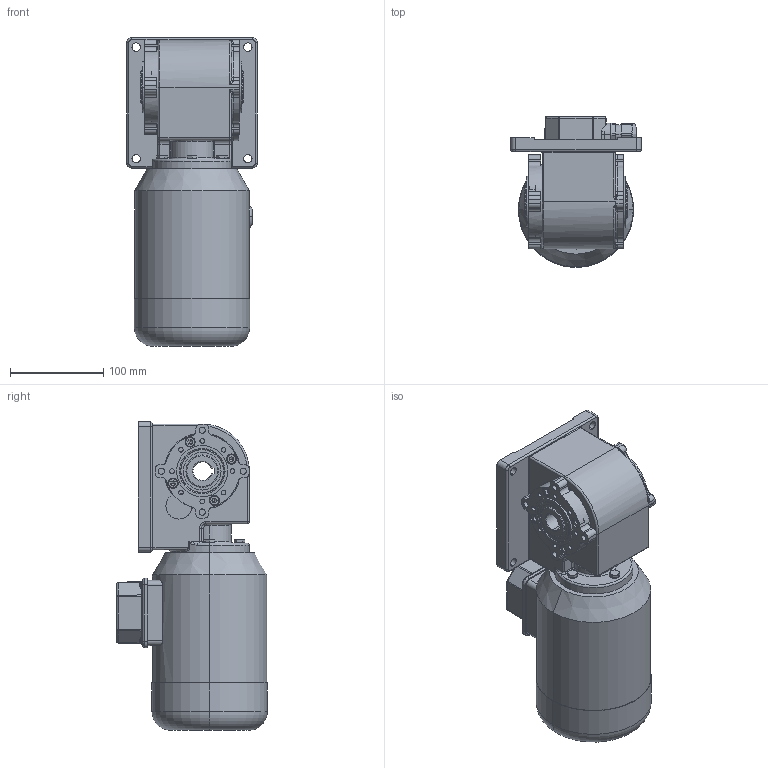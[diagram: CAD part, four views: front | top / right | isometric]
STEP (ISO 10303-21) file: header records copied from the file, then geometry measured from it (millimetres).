
FILE_DESCRIPTION (( 'STEP AP214' ), '1' );
FILE_NAME ('SN13H_180W_Drehstrom-Motor_C.STEP', '2022-03-15T15:36:28', ( '' ), ( '' ), 'SwSTEP 2.0', 'SolidWorks 2019', '' );
FILE_SCHEMA (( 'AUTOMOTIVE_DESIGN' ));
Length unit declared in the file: millimetre
Products named in the file (13): 03-M-269 I 180W_1400Upm; SN13H_180W_Drehstrom-Motor_C; 13-G-004_3D-Export; NBR_WDR_30x47x7; SN13H_3D_Export; 13FH-F-001_3D-Export; 13H-W-003_3D-Export; K_28x9.0; socket head cap screw_iso_ISO 4762 M6 x 16 - 16C; socket set screw flat point_iso_ISO 4026 - M6 x 30-C; 13H-D-001_3D_Export; Kupferscheibe Ø6x10x1 DIN7603 A; hex screw gradeab_iso_ISO 4017 - M6 x 20-C
Assembly tree (27 placements, depth 3):
  SN13H_180W_Drehstrom-Motor_C
    SN13H_3D_Export
      13-G-004_3D-Export
      13H-D-001_3D_Export
      13FH-F-001_3D-Export
      K_28x9.0
      13H-W-003_3D-Export
      NBR_WDR_30x47x7  x2
      Kupferscheibe Ø6x10x1 DIN7603 A  x4
      hex screw gradeab_iso_ISO 4017 - M6 x 20-C  x3
      socket set screw flat point_iso_ISO 4026 - M6 x 30-C
      socket head cap screw_iso_ISO 4762 M6 x 16 - 16C  x10
    03-M-269 I 180W_1400Upm
Bounding box: 140 x 162 x 331.5 mm (x, y, z)
Volume: 3598201.4 mm3; surface area: 328043.2 mm2
Topology: 28 solids, 28 shells, 1332 faces, 3248 edges, 1980 vertices
Faces by surface type: plane 461, cylinder 433, cone 210, bspline 119, torus 104, sphere 5
Entity records: 34314 total; most frequent: CARTESIAN_POINT 9759, ORIENTED_EDGE 4880, DIRECTION 4749, EDGE_CURVE 2440, AXIS2_PLACEMENT_3D 1859, VERTEX_POINT 1553, EDGE_LOOP 1125, VECTOR 1031
